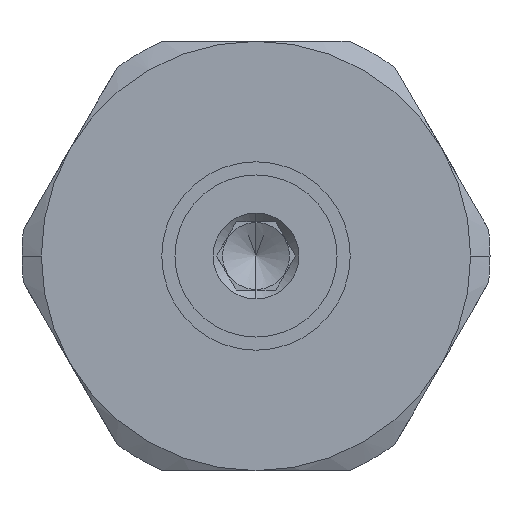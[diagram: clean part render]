
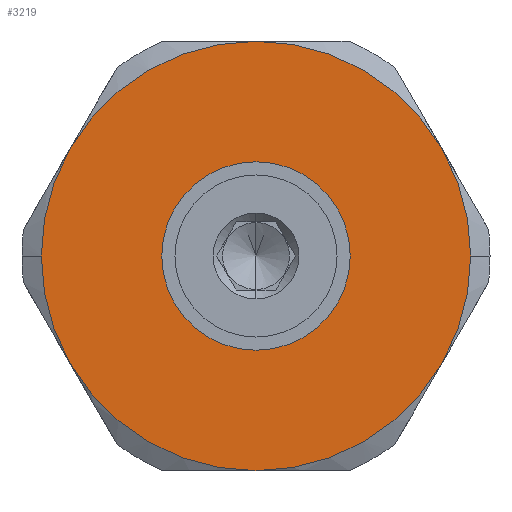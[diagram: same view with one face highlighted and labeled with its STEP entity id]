
A CAD part, left-side view. The second image highlights one B-rep face of the part: STEP entity #3219.
In plain terms, the highlighted planar face has unit normal (-1, 0, 0).
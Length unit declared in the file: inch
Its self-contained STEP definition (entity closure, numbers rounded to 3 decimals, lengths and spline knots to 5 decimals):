
#2790=CARTESIAN_POINT('',(-0.42,0.5,1.58));
#2791=VERTEX_POINT('',#2790);
#2807=CARTESIAN_POINT('',(-0.42,0.43301,1.33));
#2808=VERTEX_POINT('',#2807);
#2822=CARTESIAN_POINT('',(-0.42,0.,1.58));
#2823=DIRECTION('',(-1.0,0.0,0.0));
#2824=DIRECTION('',(0.0,1.0,0.0));
#2825=AXIS2_PLACEMENT_3D('',#2822,#2823,#2824);
#2826=CIRCLE('',#2825,0.5);
#2827=EDGE_CURVE('',#2791,#2808,#2826,.T.);
#2837=CARTESIAN_POINT('',(-0.42,-0.5,1.58));
#2838=VERTEX_POINT('',#2837);
#2845=CARTESIAN_POINT('',(-0.42,-0.43301,1.33));
#2846=VERTEX_POINT('',#2845);
#2847=CARTESIAN_POINT('',(-0.42,0.,1.58));
#2848=DIRECTION('',(-1.0,0.0,0.0));
#2849=DIRECTION('',(0.0,1.0,0.0));
#2850=AXIS2_PLACEMENT_3D('',#2847,#2848,#2849);
#2851=CIRCLE('',#2850,0.5);
#2852=EDGE_CURVE('',#2846,#2838,#2851,.T.);
#2876=CARTESIAN_POINT('',(-0.42,0.2195,1.58));
#2877=VERTEX_POINT('',#2876);
#2886=CARTESIAN_POINT('',(-0.42,-0.2195,1.58));
#2887=VERTEX_POINT('',#2886);
#2888=CARTESIAN_POINT('',(-0.42,0.,1.58));
#2889=DIRECTION('',(1.0,0.0,0.0));
#2890=DIRECTION('',(0.0,1.0,0.0));
#2891=AXIS2_PLACEMENT_3D('',#2888,#2889,#2890);
#2892=CIRCLE('',#2891,0.2195);
#2893=EDGE_CURVE('',#2887,#2877,#2892,.T.);
#3146=CARTESIAN_POINT('',(-0.42,0.,1.58));
#3147=DIRECTION('',(1.0,0.0,0.0));
#3148=DIRECTION('',(0.0,1.0,0.0));
#3149=AXIS2_PLACEMENT_3D('',#3146,#3147,#3148);
#3150=CIRCLE('',#3149,0.2195);
#3151=EDGE_CURVE('',#2877,#2887,#3150,.T.);
#3156=CARTESIAN_POINT('',(-0.42,0.,1.58));
#3157=DIRECTION('',(1.0,0.0,0.0));
#3158=DIRECTION('',(0.0,0.0,-1.0));
#3159=AXIS2_PLACEMENT_3D('',#3156,#3157,#3158);
#3160=PLANE('',#3159);
#3161=CARTESIAN_POINT('',(-0.42,-0.43301,1.83));
#3162=VERTEX_POINT('',#3161);
#3163=CARTESIAN_POINT('',(-0.42,0.,2.08));
#3164=VERTEX_POINT('',#3163);
#3165=CARTESIAN_POINT('',(-0.42,0.,1.58));
#3166=DIRECTION('',(-1.0,0.0,0.0));
#3167=DIRECTION('',(0.0,1.0,0.0));
#3168=AXIS2_PLACEMENT_3D('',#3165,#3166,#3167);
#3169=CIRCLE('',#3168,0.5);
#3170=EDGE_CURVE('',#3162,#3164,#3169,.T.);
#3171=ORIENTED_EDGE('',*,*,#3170,.T.);
#3172=CARTESIAN_POINT('',(-0.42,0.43301,1.83));
#3173=VERTEX_POINT('',#3172);
#3174=CARTESIAN_POINT('',(-0.42,0.,1.58));
#3175=DIRECTION('',(-1.0,0.0,0.0));
#3176=DIRECTION('',(0.0,1.0,0.0));
#3177=AXIS2_PLACEMENT_3D('',#3174,#3175,#3176);
#3178=CIRCLE('',#3177,0.5);
#3179=EDGE_CURVE('',#3164,#3173,#3178,.T.);
#3180=ORIENTED_EDGE('',*,*,#3179,.T.);
#3181=CARTESIAN_POINT('',(-0.42,0.,1.58));
#3182=DIRECTION('',(-1.0,0.0,0.0));
#3183=DIRECTION('',(0.0,1.0,0.0));
#3184=AXIS2_PLACEMENT_3D('',#3181,#3182,#3183);
#3185=CIRCLE('',#3184,0.5);
#3186=EDGE_CURVE('',#3173,#2791,#3185,.T.);
#3187=ORIENTED_EDGE('',*,*,#3186,.T.);
#3188=ORIENTED_EDGE('',*,*,#2827,.T.);
#3189=CARTESIAN_POINT('',(-0.42,0.,1.08));
#3190=VERTEX_POINT('',#3189);
#3191=CARTESIAN_POINT('',(-0.42,0.,1.58));
#3192=DIRECTION('',(-1.0,0.0,0.0));
#3193=DIRECTION('',(0.0,1.0,0.0));
#3194=AXIS2_PLACEMENT_3D('',#3191,#3192,#3193);
#3195=CIRCLE('',#3194,0.5);
#3196=EDGE_CURVE('',#2808,#3190,#3195,.T.);
#3197=ORIENTED_EDGE('',*,*,#3196,.T.);
#3198=CARTESIAN_POINT('',(-0.42,0.,1.58));
#3199=DIRECTION('',(-1.0,0.0,0.0));
#3200=DIRECTION('',(0.0,1.0,0.0));
#3201=AXIS2_PLACEMENT_3D('',#3198,#3199,#3200);
#3202=CIRCLE('',#3201,0.5);
#3203=EDGE_CURVE('',#3190,#2846,#3202,.T.);
#3204=ORIENTED_EDGE('',*,*,#3203,.T.);
#3205=ORIENTED_EDGE('',*,*,#2852,.T.);
#3206=CARTESIAN_POINT('',(-0.42,0.,1.58));
#3207=DIRECTION('',(-1.0,0.0,0.0));
#3208=DIRECTION('',(0.0,1.0,0.0));
#3209=AXIS2_PLACEMENT_3D('',#3206,#3207,#3208);
#3210=CIRCLE('',#3209,0.5);
#3211=EDGE_CURVE('',#2838,#3162,#3210,.T.);
#3212=ORIENTED_EDGE('',*,*,#3211,.T.);
#3213=EDGE_LOOP('',(#3171,#3180,#3187,#3188,#3197,#3204,#3205,#3212));
#3214=FACE_OUTER_BOUND('',#3213,.T.);
#3215=ORIENTED_EDGE('',*,*,#3151,.T.);
#3216=ORIENTED_EDGE('',*,*,#2893,.T.);
#3217=EDGE_LOOP('',(#3215,#3216));
#3218=FACE_BOUND('',#3217,.T.);
#3219=ADVANCED_FACE('',(#3214,#3218),#3160,.F.);
